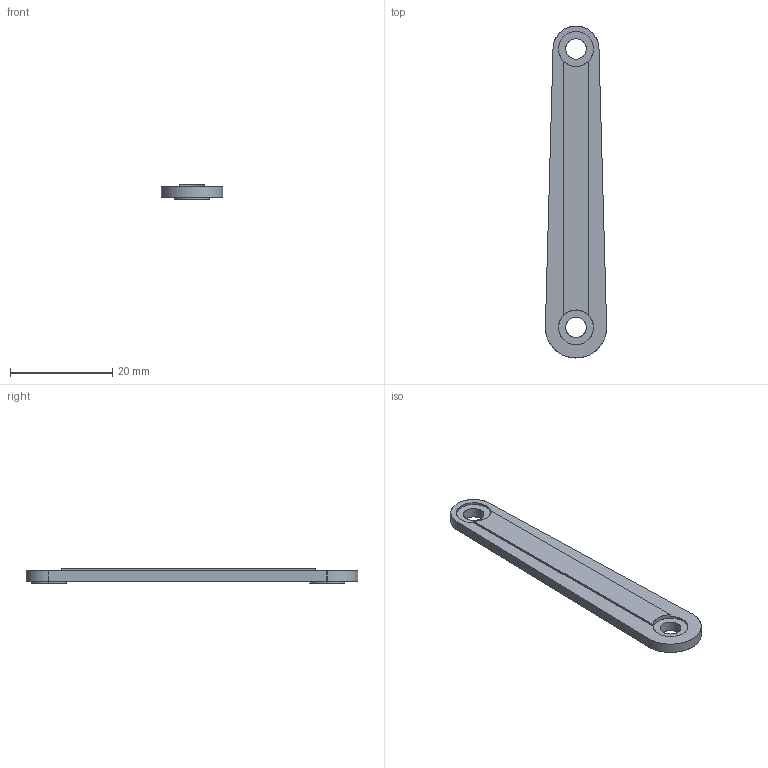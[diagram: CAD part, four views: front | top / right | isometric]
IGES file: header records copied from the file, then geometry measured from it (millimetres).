
Start section: SolidWorks IGES FILE using analytic representation for surfaces
Global section: file name: C:\Documents and Settings\lecoutey\Bureau\GP 1047\1047.060.00.IGS; native system: SolidWorks 2004 by SolidWorks Corporation; preprocessor: Version 5.3; author: lecoutey; date: 050329.154451; units: millimetre
Bounding box: 12 x 65 x 2.8 mm (x, y, z)
Surface area: 1727.9 mm2 (no closed solid volume)
Topology: 0 solids, 0 shells, 30 faces, 568 edges, 568 vertices
Faces by surface type: revolution 16, bspline 14
